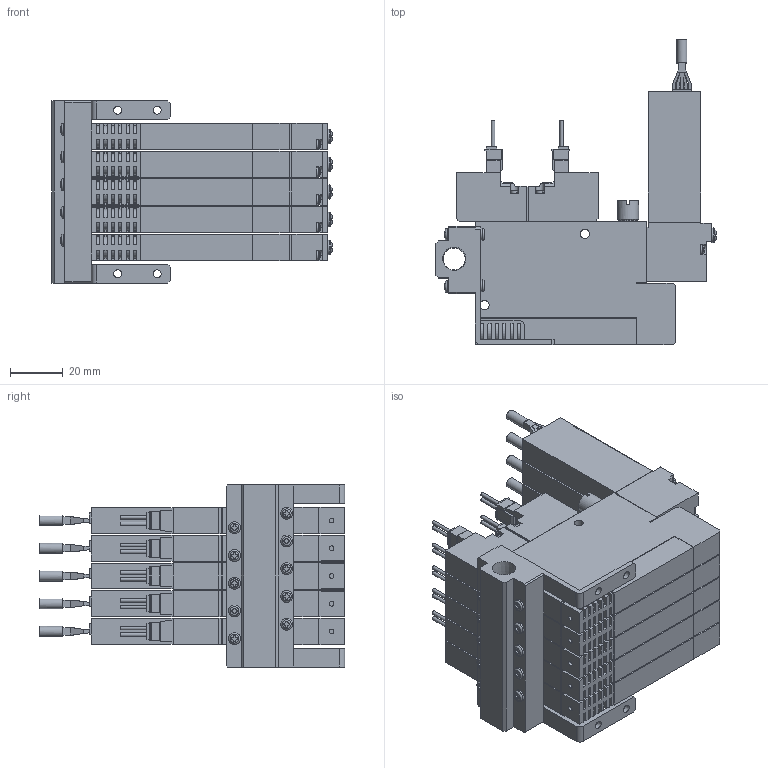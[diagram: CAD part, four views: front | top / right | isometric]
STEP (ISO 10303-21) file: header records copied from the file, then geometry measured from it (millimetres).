
FILE_DESCRIPTION(('STEP AP203'),'1');
FILE_NAME('5SS505_3D.stp','2024-09-04T22:51:55',(' '),(' '),'Spatial InterOp 3D',' ',' ');
FILE_SCHEMA(('CONFIG_CONTROL_DESIGN'));
Length unit declared in the file: millimetre
Products named in the file (5): BSC1M※※V9※5SS505; Solenoid valve S; Pressure Sensor V9; Unit-S; BaseMS50R
Assembly tree (16 placements, depth 2):
  BSC1M※※V9※5SS505
    Solenoid valve S  x5
    Pressure Sensor V9  x5
    Unit-S  x5
    BaseMS50R
Bounding box: 106.35 x 115.8 x 69 mm (x, y, z)
Volume: 292697.5 mm3; surface area: 116174.5 mm2
Topology: 16 solids, 16 shells, 2635 faces, 7240 edges, 4786 vertices
Faces by surface type: plane 1963, cylinder 587, sphere 29, torus 29, cone 27
Full cylindrical faces by diameter (mm): 1.4 x20, 1.8 x5, 2.5 x10, 3 x24, 3.5 x40, 3.8 x5, 4 x5, 4.134 x10, 4.5 x14, 5.5 x10, 7 x5, 7.7 x5, 8 x5, 8.422 x1
Entity records: 23270 total; most frequent: CARTESIAN_POINT 5087, DIRECTION 3630, ORIENTED_EDGE 3628, EDGE_CURVE 1814, LINE 1292, VECTOR 1292, VERTEX_POINT 1252, AXIS2_PLACEMENT_3D 1169
